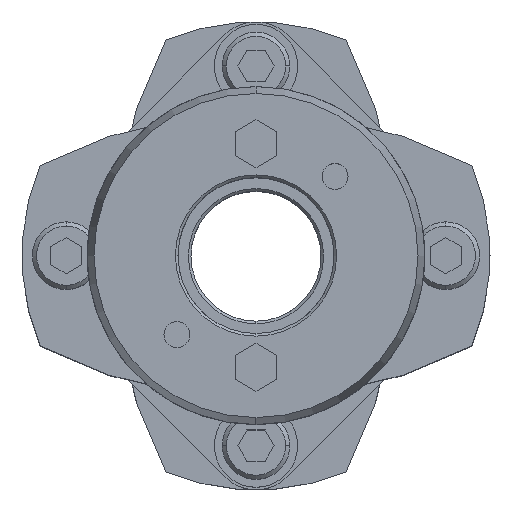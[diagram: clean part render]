
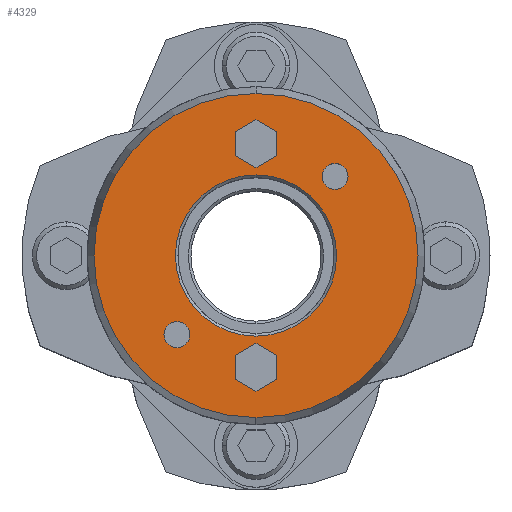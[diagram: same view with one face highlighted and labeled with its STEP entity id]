
A CAD part, top view. The second image highlights one B-rep face of the part: STEP entity #4329.
In plain terms, the highlighted planar face has unit normal (0, 0, 1).
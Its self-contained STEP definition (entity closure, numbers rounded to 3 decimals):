
#2291=CARTESIAN_POINT('',(0.,15.5,52.0));
#2292=VERTEX_POINT('',#2291);
#2308=CARTESIAN_POINT('',(0.,-15.5,52.0));
#2309=VERTEX_POINT('',#2308);
#2316=CARTESIAN_POINT('',(0.,0.,52.0));
#2317=DIRECTION('',(0.0,0.0,1.0));
#2318=DIRECTION('',(0.0,1.0,0.0));
#2319=AXIS2_PLACEMENT_3D('',#2316,#2317,#2318);
#2320=CIRCLE('',#2319,15.5);
#2321=EDGE_CURVE('',#2309,#2292,#2320,.T.);
#2437=CARTESIAN_POINT('',(0.,-31.16,52.0));
#2438=VERTEX_POINT('',#2437);
#2447=CARTESIAN_POINT('',(0.,31.16,52.0));
#2448=VERTEX_POINT('',#2447);
#2449=CARTESIAN_POINT('',(0.,0.,52.0));
#2450=DIRECTION('',(0.0,0.0,-1.0));
#2451=DIRECTION('',(0.0,-1.0,0.0));
#2452=AXIS2_PLACEMENT_3D('',#2449,#2450,#2451);
#2453=CIRCLE('',#2452,31.16);
#2454=EDGE_CURVE('',#2438,#2448,#2453,.T.);
#2771=CARTESIAN_POINT('',(15.203,17.703,52.0));
#2772=VERTEX_POINT('',#2771);
#2788=CARTESIAN_POINT('',(15.203,12.703,52.0));
#2789=VERTEX_POINT('',#2788);
#2796=CARTESIAN_POINT('',(15.203,15.203,52.0));
#2797=DIRECTION('',(0.0,0.0,-1.0));
#2798=DIRECTION('',(0.0,1.0,0.0));
#2799=AXIS2_PLACEMENT_3D('',#2796,#2797,#2798);
#2800=CIRCLE('',#2799,2.5);
#2801=EDGE_CURVE('',#2772,#2789,#2800,.T.);
#2813=CARTESIAN_POINT('',(-15.203,-12.703,52.0));
#2814=VERTEX_POINT('',#2813);
#2830=CARTESIAN_POINT('',(-15.203,-17.703,52.0));
#2831=VERTEX_POINT('',#2830);
#2838=CARTESIAN_POINT('',(-15.203,-15.203,52.0));
#2839=DIRECTION('',(0.0,0.0,-1.0));
#2840=DIRECTION('',(0.0,1.0,0.0));
#2841=AXIS2_PLACEMENT_3D('',#2838,#2839,#2840);
#2842=CIRCLE('',#2841,2.5);
#2843=EDGE_CURVE('',#2814,#2831,#2842,.T.);
#2935=CARTESIAN_POINT('',(0.,-16.881,52.0));
#2936=VERTEX_POINT('',#2935);
#2943=CARTESIAN_POINT('',(-4.,-19.191,52.0));
#2944=VERTEX_POINT('',#2943);
#2945=CARTESIAN_POINT('',(-4.,-19.191,52.0));
#2946=DIRECTION('',(0.866,0.5,0.0));
#2947=VECTOR('',#2946,4.619);
#2948=LINE('',#2945,#2947);
#2949=EDGE_CURVE('',#2944,#2936,#2948,.T.);
#2973=CARTESIAN_POINT('',(4.,-19.191,52.0));
#2974=VERTEX_POINT('',#2973);
#2981=CARTESIAN_POINT('',(0.,-16.881,52.0));
#2982=DIRECTION('',(0.866,-0.5,0.0));
#2983=VECTOR('',#2982,4.619);
#2984=LINE('',#2981,#2983);
#2985=EDGE_CURVE('',#2936,#2974,#2984,.T.);
#3004=CARTESIAN_POINT('',(4.,-23.809,52.0));
#3005=VERTEX_POINT('',#3004);
#3012=CARTESIAN_POINT('',(4.,-19.191,52.0));
#3013=DIRECTION('',(0.0,-1.0,0.0));
#3014=VECTOR('',#3013,4.619);
#3015=LINE('',#3012,#3014);
#3016=EDGE_CURVE('',#2974,#3005,#3015,.T.);
#3035=CARTESIAN_POINT('',(0.,-26.119,52.0));
#3036=VERTEX_POINT('',#3035);
#3043=CARTESIAN_POINT('',(4.,-23.809,52.0));
#3044=DIRECTION('',(-0.866,-0.5,0.0));
#3045=VECTOR('',#3044,4.619);
#3046=LINE('',#3043,#3045);
#3047=EDGE_CURVE('',#3005,#3036,#3046,.T.);
#3066=CARTESIAN_POINT('',(-4.,-23.809,52.0));
#3067=VERTEX_POINT('',#3066);
#3074=CARTESIAN_POINT('',(0.,-26.119,52.0));
#3075=DIRECTION('',(-0.866,0.5,0.0));
#3076=VECTOR('',#3075,4.619);
#3077=LINE('',#3074,#3076);
#3078=EDGE_CURVE('',#3036,#3067,#3077,.T.);
#3096=CARTESIAN_POINT('',(-4.,-23.809,52.0));
#3097=DIRECTION('',(0.0,1.0,0.0));
#3098=VECTOR('',#3097,4.619);
#3099=LINE('',#3096,#3098);
#3100=EDGE_CURVE('',#3067,#2944,#3099,.T.);
#3135=CARTESIAN_POINT('',(0.,26.119,52.0));
#3136=VERTEX_POINT('',#3135);
#3143=CARTESIAN_POINT('',(-4.,23.809,52.0));
#3144=VERTEX_POINT('',#3143);
#3145=CARTESIAN_POINT('',(-4.,23.809,52.0));
#3146=DIRECTION('',(0.866,0.5,0.0));
#3147=VECTOR('',#3146,4.619);
#3148=LINE('',#3145,#3147);
#3149=EDGE_CURVE('',#3144,#3136,#3148,.T.);
#3173=CARTESIAN_POINT('',(4.,23.809,52.0));
#3174=VERTEX_POINT('',#3173);
#3181=CARTESIAN_POINT('',(0.,26.119,52.0));
#3182=DIRECTION('',(0.866,-0.5,0.0));
#3183=VECTOR('',#3182,4.619);
#3184=LINE('',#3181,#3183);
#3185=EDGE_CURVE('',#3136,#3174,#3184,.T.);
#3204=CARTESIAN_POINT('',(4.,19.191,52.0));
#3205=VERTEX_POINT('',#3204);
#3212=CARTESIAN_POINT('',(4.,23.809,52.0));
#3213=DIRECTION('',(0.0,-1.0,0.0));
#3214=VECTOR('',#3213,4.619);
#3215=LINE('',#3212,#3214);
#3216=EDGE_CURVE('',#3174,#3205,#3215,.T.);
#3235=CARTESIAN_POINT('',(0.,16.881,52.0));
#3236=VERTEX_POINT('',#3235);
#3243=CARTESIAN_POINT('',(4.,19.191,52.0));
#3244=DIRECTION('',(-0.866,-0.5,0.0));
#3245=VECTOR('',#3244,4.619);
#3246=LINE('',#3243,#3245);
#3247=EDGE_CURVE('',#3205,#3236,#3246,.T.);
#3266=CARTESIAN_POINT('',(-4.,19.191,52.0));
#3267=VERTEX_POINT('',#3266);
#3274=CARTESIAN_POINT('',(0.,16.881,52.0));
#3275=DIRECTION('',(-0.866,0.5,0.0));
#3276=VECTOR('',#3275,4.619);
#3277=LINE('',#3274,#3276);
#3278=EDGE_CURVE('',#3236,#3267,#3277,.T.);
#3296=CARTESIAN_POINT('',(-4.,19.191,52.0));
#3297=DIRECTION('',(0.0,1.0,0.0));
#3298=VECTOR('',#3297,4.619);
#3299=LINE('',#3296,#3298);
#3300=EDGE_CURVE('',#3267,#3144,#3299,.T.);
#3326=CARTESIAN_POINT('',(-15.203,-15.203,52.0));
#3327=DIRECTION('',(0.0,0.0,-1.0));
#3328=DIRECTION('',(0.0,1.0,0.0));
#3329=AXIS2_PLACEMENT_3D('',#3326,#3327,#3328);
#3330=CIRCLE('',#3329,2.5);
#3331=EDGE_CURVE('',#2831,#2814,#3330,.T.);
#3360=CARTESIAN_POINT('',(15.203,15.203,52.0));
#3361=DIRECTION('',(0.0,0.0,-1.0));
#3362=DIRECTION('',(0.0,1.0,0.0));
#3363=AXIS2_PLACEMENT_3D('',#3360,#3361,#3362);
#3364=CIRCLE('',#3363,2.5);
#3365=EDGE_CURVE('',#2789,#2772,#3364,.T.);
#4276=CARTESIAN_POINT('',(0.,0.,52.0));
#4277=DIRECTION('',(0.0,0.0,-1.0));
#4278=DIRECTION('',(0.0,-1.0,0.0));
#4279=AXIS2_PLACEMENT_3D('',#4276,#4277,#4278);
#4280=CIRCLE('',#4279,31.16);
#4281=EDGE_CURVE('',#2448,#2438,#4280,.T.);
#4286=CARTESIAN_POINT('',(0.,2.682,52.0));
#4287=DIRECTION('',(0.0,0.0,1.0));
#4288=DIRECTION('',(0.0,1.0,0.0));
#4289=AXIS2_PLACEMENT_3D('',#4286,#4287,#4288);
#4290=PLANE('',#4289);
#4291=ORIENTED_EDGE('',*,*,#4281,.F.);
#4292=ORIENTED_EDGE('',*,*,#2454,.F.);
#4293=EDGE_LOOP('',(#4291,#4292));
#4294=FACE_OUTER_BOUND('',#4293,.T.);
#4295=ORIENTED_EDGE('',*,*,#2949,.T.);
#4296=ORIENTED_EDGE('',*,*,#2985,.T.);
#4297=ORIENTED_EDGE('',*,*,#3016,.T.);
#4298=ORIENTED_EDGE('',*,*,#3047,.T.);
#4299=ORIENTED_EDGE('',*,*,#3078,.T.);
#4300=ORIENTED_EDGE('',*,*,#3100,.T.);
#4301=EDGE_LOOP('',(#4295,#4296,#4297,#4298,#4299,#4300));
#4302=FACE_BOUND('',#4301,.T.);
#4303=ORIENTED_EDGE('',*,*,#3149,.T.);
#4304=ORIENTED_EDGE('',*,*,#3185,.T.);
#4305=ORIENTED_EDGE('',*,*,#3216,.T.);
#4306=ORIENTED_EDGE('',*,*,#3247,.T.);
#4307=ORIENTED_EDGE('',*,*,#3278,.T.);
#4308=ORIENTED_EDGE('',*,*,#3300,.T.);
#4309=EDGE_LOOP('',(#4303,#4304,#4305,#4306,#4307,#4308));
#4310=FACE_BOUND('',#4309,.T.);
#4311=ORIENTED_EDGE('',*,*,#2843,.T.);
#4312=ORIENTED_EDGE('',*,*,#3331,.T.);
#4313=EDGE_LOOP('',(#4311,#4312));
#4314=FACE_BOUND('',#4313,.T.);
#4315=ORIENTED_EDGE('',*,*,#2801,.T.);
#4316=ORIENTED_EDGE('',*,*,#3365,.T.);
#4317=EDGE_LOOP('',(#4315,#4316));
#4318=FACE_BOUND('',#4317,.T.);
#4319=ORIENTED_EDGE('',*,*,#2321,.F.);
#4320=CARTESIAN_POINT('',(0.,0.,52.0));
#4321=DIRECTION('',(0.0,0.0,1.0));
#4322=DIRECTION('',(0.0,1.0,0.0));
#4323=AXIS2_PLACEMENT_3D('',#4320,#4321,#4322);
#4324=CIRCLE('',#4323,15.5);
#4325=EDGE_CURVE('',#2292,#2309,#4324,.T.);
#4326=ORIENTED_EDGE('',*,*,#4325,.F.);
#4327=EDGE_LOOP('',(#4319,#4326));
#4328=FACE_BOUND('',#4327,.T.);
#4329=ADVANCED_FACE('',(#4294,#4302,#4310,#4314,#4318,#4328),#4290,.T.);
